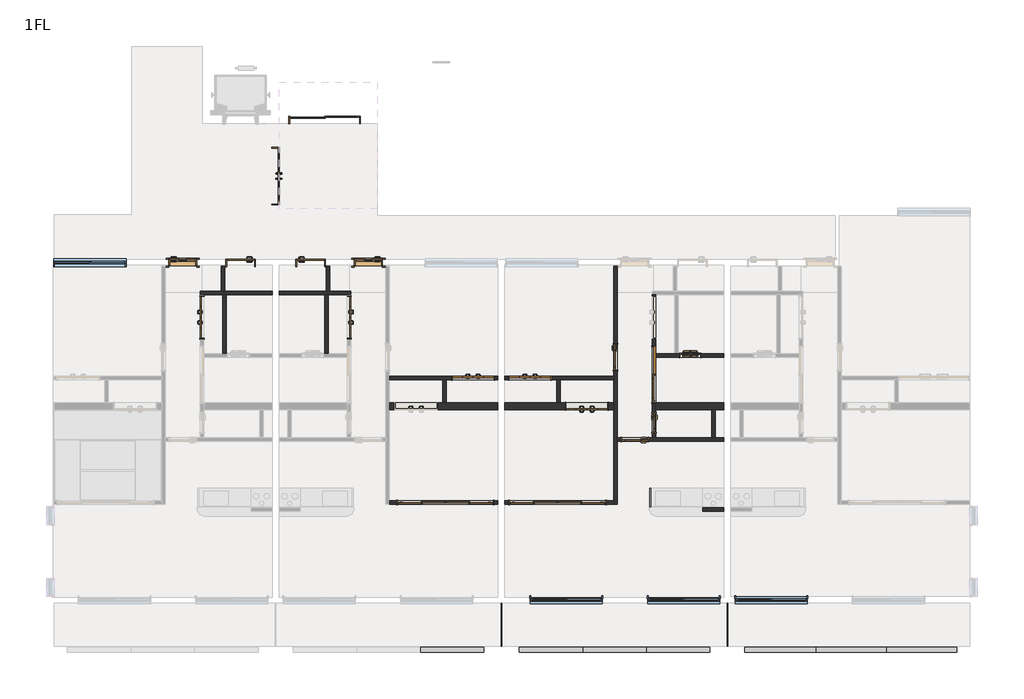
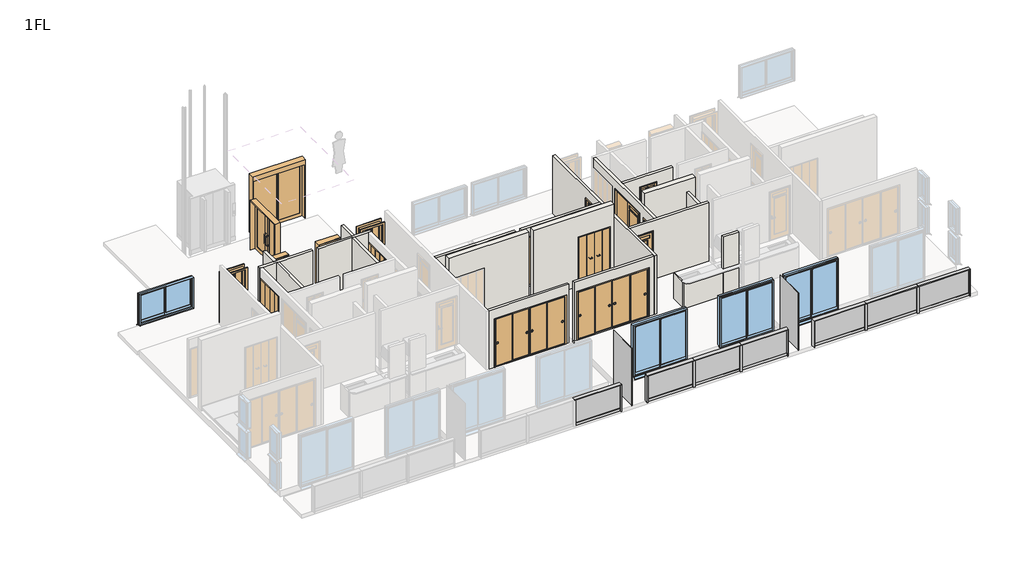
# One storey, part 2 of 3: 23 walls, 18 doors, 16 members, 9 plates, 4 windows.
"""IFC4 building model written with IfcOpenShell, lengths in millimetres."""

from ifc_helpers import new_model, si_unit, frame, origin, place, context, project, spatial, polyline, outline, extrude, faceted_brep, transform, mapped, element, save
from components import door_800x2000_a7d1584b, door_800x2000_010bfebf, w1200h2000_98cacc9b, w1200h2000_6a144d60, w1200h2000_99d19fb3, w1600h2000_4c3c234a, w1600h2000_3fdee943, w2000h2200_4605e8f1, w2800h2000_670b855b, w2800h2000_04aa64cd, w600h2000_7f2747f4, w600h2000_6a266bef, w800h2000_1d97c4d4, w800h2000_0ab7d42c, w800h2000_13e9f519, w800h2000_ccb03061, member_25x150_3f8205e2, member_25x150_f694351b, member_25x150_e95393f9, member_70x150_851c8a9b, plate_6aa9e5b9, plate_9f48129f, plate_365944b3, plate_b830f844, plate_2f85ae4c, window_2000x1200_fc91d1cf, window_2000x2000_f1ff98da

model = new_model("IFC4")

# Units and contexts
model_context = context("Model", 3, world=origin())
ifc_project = project(units=[si_unit("LENGTHUNIT", "METRE", prefix="MILLI")], contexts=[model_context])

# Site, building, storey
site = spatial("IfcSite", under=ifc_project)
building = spatial("IfcBuilding", under=site)
storey = spatial("IfcBuildingStorey", under=building, Name="1FL", Elevation=1000.0)

# Doors
placement = place(None, origin())
door_800x2000_shape = door_800x2000_a7d1584b(model_context)
element("IfcDoor", 1, ObjectType="片開き3 : 800x2000", at=placement, inside=storey, context=model_context, shape_type="MappedRepresentation", body=[
    mapped(door_800x2000_shape, transform((-7378.7187246, -5726.3671638, 1000.0), x_axis=(1.0, 0.0, 0.0), y_axis=(0.0, 1.0, 0.0), z_axis=(0.0, 0.0, 1.0))),
])
door_800x2000_2_shape = door_800x2000_010bfebf(model_context)
element("IfcDoor", 2, ObjectType="片開き3 : 800x2000", at=placement, inside=storey, context=model_context, shape_type="MappedRepresentation", body=[
    mapped(door_800x2000_2_shape, transform((-2078.7187246, -5726.3671638, 1000.0), x_axis=(-1.0, 0.0, 0.0), y_axis=(0.0, -1.0, 0.0), z_axis=(0.0, 0.0, 1.0))),
])
w1200h2000_shape = w1200h2000_98cacc9b(model_context)
element("IfcDoor", 3, ObjectType="木製折戸 : w1200h2000", at=placement, inside=storey, context=model_context, shape_type="MappedRepresentation", body=[
    mapped(w1200h2000_shape, transform((4158.7812754, -9820.1171638, 1100.0), x_axis=(-1.0, 0.0, 0.0), y_axis=(0.0, -1.0, 0.0), z_axis=(0.0, 0.0, 1.0))),
])
w1200h2000_2_shape = w1200h2000_6a144d60(model_context)
element("IfcDoor", 4, ObjectType="木製折戸 : w1200h2000", at=placement, inside=storey, context=model_context, shape_type="MappedRepresentation", body=[
    mapped(w1200h2000_2_shape, transform((-6828.7187246, -7280.1171638, 1100.0), x_axis=(0.0, 1.0, 0.0), y_axis=(-1.0, 0.0, 0.0), z_axis=(0.0, 0.0, 1.0))),
])
element("IfcDoor", 5, ObjectType="木製折戸 : w1200h2000", at=placement, inside=storey, context=model_context, shape_type="MappedRepresentation", body=[
    mapped(w1200h2000_2_shape, transform((2533.7812754, -9020.1171638, 1100.0), x_axis=(1.0, 0.0, 0.0), y_axis=(0.0, 1.0, 0.0), z_axis=(0.0, 0.0, 1.0))),
])
w1200h2000_3_shape = w1200h2000_99d19fb3(model_context)
element("IfcDoor", 6, ObjectType="木製折戸 : w1200h2000", at=placement, inside=storey, context=model_context, shape_type="MappedRepresentation", body=[
    mapped(w1200h2000_3_shape, transform((908.7812754, -9020.1171638, 1100.0), x_axis=(-1.0, 0.0, 0.0), y_axis=(0.0, -1.0, 0.0), z_axis=(0.0, 0.0, 1.0))),
])
element("IfcDoor", 7, ObjectType="木製折戸 : w1200h2000", at=placement, inside=storey, context=model_context, shape_type="MappedRepresentation", body=[
    mapped(w1200h2000_3_shape, transform((-2628.7187246, -7280.1171638, 1100.0), x_axis=(0.0, 1.0, 0.0), y_axis=(-1.0, 0.0, 0.0), z_axis=(0.0, 0.0, 1.0))),
])
w1600h2000_shape = w1600h2000_4c3c234a(model_context)
element("IfcDoor", 8, ObjectType="片引戸CL2017 : w1600h2000", at=placement, inside=storey, context=model_context, shape_type="MappedRepresentation", body=[
    mapped(w1600h2000_shape, transform((6071.2812754, -8920.1171638, 1100.0), x_axis=(0.0, -1.0, 0.0), y_axis=(1.0, 0.0, 0.0), z_axis=(0.0, 0.0, 1.0))),
])
w1600h2000_2_shape = w1600h2000_3fdee943(model_context)
element("IfcDoor", 9, ObjectType="両開_ガラス四方框 : w1600h2000", at=placement, inside=storey, context=model_context, shape_type="MappedRepresentation", body=[
    mapped(w1600h2000_2_shape, transform((-4728.7187246, -3250.1171638, 1000.0), x_axis=(0.0, -1.0, 0.0), y_axis=(1.0, 0.0, 0.0), z_axis=(0.0, 0.0, 1.0))),
])
w2000h2200_shape = w2000h2200_4605e8f1(model_context)
element("IfcDoor", 10, ObjectType="片引き_自動ドア_ガラス四方框 : w2000h2200", at=placement, inside=storey, context=model_context, shape_type="MappedRepresentation", body=[
    mapped(w2000h2200_shape, transform((-3203.7187246, -1650.1171638, 1000.0), x_axis=(1.0, 0.0, 0.0), y_axis=(0.0, 1.0, 0.0), z_axis=(0.0, 0.0, 1.0))),
])
w2800h2000_shape = w2800h2000_670b855b(model_context)
element("IfcDoor", 11, ObjectType="引違い 4 枚 2 溝_襖 : w2800h2000", at=placement, inside=storey, context=model_context, shape_type="MappedRepresentation", body=[
    mapped(w2800h2000_shape, transform((3315.7457714, -12570.1171638, 1100.0), x_axis=(-1.0, 0.0, 0.0), y_axis=(0.0, -1.0, 0.0), z_axis=(0.0, 0.0, 1.0))),
])
w2800h2000_2_shape = w2800h2000_04aa64cd(model_context)
element("IfcDoor", 12, ObjectType="引違い 4 枚 2 溝_襖 : w2800h2000", at=placement, inside=storey, context=model_context, shape_type="MappedRepresentation", body=[
    mapped(w2800h2000_2_shape, transform((126.8167793, -12570.1171638, 1100.0), x_axis=(1.0, 0.0, 0.0), y_axis=(0.0, 1.0, 0.0), z_axis=(0.0, 0.0, 1.0))),
])
w600h2000_shape = w600h2000_7f2747f4(model_context)
element("IfcDoor", 13, ObjectType="片開戸CL2058 : w600h2000", at=placement, inside=storey, context=model_context, shape_type="MappedRepresentation", body=[
    mapped(w600h2000_shape, transform((6071.2812754, -10295.1171638, 1100.0), x_axis=(0.0, -1.0, 0.0), y_axis=(1.0, 0.0, 0.0), z_axis=(0.0, 0.0, 1.0))),
])
w600h2000_2_shape = w600h2000_6a266bef(model_context)
element("IfcDoor", 14, ObjectType="浴室折戸 : w600h2000", at=placement, inside=storey, context=model_context, shape_type="MappedRepresentation", body=[
    mapped(w600h2000_2_shape, transform((7111.2812754, -8370.1171638, 1100.0), x_axis=(1.0, 0.0, 0.0), y_axis=(0.0, 1.0, 0.0), z_axis=(0.0, 0.0, 1.0))),
])
w800h2000_shape = w800h2000_1d97c4d4(model_context)
element("IfcDoor", 15, ObjectType="片開 : w800h2000", at=placement, inside=storey, context=model_context, shape_type="MappedRepresentation", body=[
    mapped(w800h2000_shape, transform((-5728.7187246, -5726.3671638, 1000.0), x_axis=(-1.0, 0.0, 0.0), y_axis=(0.0, -1.0, 0.0), z_axis=(0.0, 0.0, 1.0))),
])
w800h2000_2_shape = w800h2000_0ab7d42c(model_context)
element("IfcDoor", 16, ObjectType="片開 : w800h2000", at=placement, inside=storey, context=model_context, shape_type="MappedRepresentation", body=[
    mapped(w800h2000_2_shape, transform((-3728.7187246, -5726.3671638, 1000.0), x_axis=(1.0, 0.0, 0.0), y_axis=(0.0, 1.0, 0.0), z_axis=(0.0, 0.0, 1.0))),
])
w800h2000_3_shape = w800h2000_13e9f519(model_context)
element("IfcDoor", 17, ObjectType="片開戸CL2058 : w800h2000", at=placement, inside=storey, context=model_context, shape_type="MappedRepresentation", body=[
    mapped(w800h2000_3_shape, transform((4971.2812754, -8420.1171638, 1100.0), x_axis=(0.0, -1.0, 0.0), y_axis=(1.0, 0.0, 0.0), z_axis=(0.0, 0.0, 1.0))),
])
w800h2000_4_shape = w800h2000_ccb03061(model_context)
element("IfcDoor", 18, ObjectType="片開戸CL2058 : w800h2000", at=placement, inside=storey, context=model_context, shape_type="MappedRepresentation", body=[
    mapped(w800h2000_4_shape, transform((5521.2812754, -10770.1171638, 1100.0), x_axis=(-1.0, 0.0, 0.0), y_axis=(0.0, -1.0, 0.0), z_axis=(0.0, 0.0, 1.0))),
])

# Members
member_25x150_shape = member_25x150_3f8205e2(model_context)
element("IfcMember", 19, ObjectType="長方形のマリオン : 25x150", at=placement, inside=storey, context=model_context, shape_type="MappedRepresentation", body=[
    mapped(member_25x150_shape, transform((1221.2812754, -16770.1171638, 1000.0), x_axis=(1.0, 0.0, 0.0), y_axis=(0.0, -1.0, 0.0), z_axis=(0.0, 0.0, -1.0))),
])
element("IfcMember", 20, ObjectType="長方形のマリオン : 25x150", at=placement, inside=storey, context=model_context, shape_type="MappedRepresentation", body=[
    mapped(member_25x150_shape, transform((7671.2812754, -16770.1171638, 1000.0), x_axis=(1.0, 0.0, 0.0), y_axis=(0.0, -1.0, 0.0), z_axis=(0.0, 0.0, -1.0))),
])
element("IfcMember", 21, ObjectType="長方形のマリオン : 25x150", at=placement, inside=storey, context=model_context, shape_type="MappedRepresentation", body=[
    mapped(member_25x150_shape, transform((14721.2812754, -16770.1171638, 1000.0), x_axis=(1.0, 0.0, 0.0), y_axis=(0.0, -1.0, 0.0), z_axis=(0.0, 0.0, -1.0))),
])
element("IfcMember", 22, ObjectType="長方形のマリオン : 25x150", at=placement, inside=storey, context=model_context, shape_type="MappedRepresentation", body=[
    mapped(member_25x150_shape, transform((2221.2812754, -16770.1171638, 2075.0), x_axis=(-1.0, 0.0, 0.0), y_axis=(0.0, -1.0, 0.0), z_axis=(0.0, 0.0, 1.0))),
])
element("IfcMember", 23, ObjectType="長方形のマリオン : 25x150", at=placement, inside=storey, context=model_context, shape_type="MappedRepresentation", body=[
    mapped(member_25x150_shape, transform((8671.2812754, -16770.1171638, 2075.0), x_axis=(-1.0, 0.0, 0.0), y_axis=(0.0, -1.0, 0.0), z_axis=(0.0, 0.0, 1.0))),
])
member_25x150_2_shape = member_25x150_f694351b(model_context)
element("IfcMember", 24, ObjectType="長方形のマリオン : 25x150", at=placement, inside=storey, context=model_context, shape_type="MappedRepresentation", body=[
    mapped(member_25x150_2_shape, transform((1221.2812754, -16770.1171638, 2100.0), x_axis=(0.0, 0.0, 1.0), y_axis=(0.0, -1.0, 0.0), z_axis=(1.0, 0.0, 0.0))),
])
element("IfcMember", 25, ObjectType="長方形のマリオン : 25x150", at=placement, inside=storey, context=model_context, shape_type="MappedRepresentation", body=[
    mapped(member_25x150_2_shape, transform((7671.2812754, -16770.1171638, 2100.0), x_axis=(0.0, 0.0, 1.0), y_axis=(0.0, -1.0, 0.0), z_axis=(1.0, 0.0, 0.0))),
])
element("IfcMember", 26, ObjectType="長方形のマリオン : 25x150", at=placement, inside=storey, context=model_context, shape_type="MappedRepresentation", body=[
    mapped(member_25x150_2_shape, transform((4037.947942, -16770.1171638, 2100.0), x_axis=(0.0, 0.0, 1.0), y_axis=(0.0, -1.0, 0.0), z_axis=(1.0, 0.0, 0.0))),
])
element("IfcMember", 27, ObjectType="長方形のマリオン : 25x150", at=placement, inside=storey, context=model_context, shape_type="MappedRepresentation", body=[
    mapped(member_25x150_2_shape, transform((5854.6146087, -16770.1171638, 2100.0), x_axis=(0.0, 0.0, 1.0), y_axis=(0.0, -1.0, 0.0), z_axis=(1.0, 0.0, 0.0))),
])
member_25x150_3_shape = member_25x150_e95393f9(model_context)
element("IfcMember", 28, ObjectType="長方形のマリオン : 25x150", at=placement, inside=storey, context=model_context, shape_type="MappedRepresentation", body=[
    mapped(member_25x150_3_shape, transform((14721.2812754, -16770.1171638, 2100.0), x_axis=(0.0, 0.0, 1.0), y_axis=(0.0, -1.0, 0.0), z_axis=(1.0, 0.0, 0.0))),
])
element("IfcMember", 29, ObjectType="長方形のマリオン : 25x150", at=placement, inside=storey, context=model_context, shape_type="MappedRepresentation", body=[
    mapped(member_25x150_3_shape, transform((10687.947942, -16770.1171638, 2100.0), x_axis=(0.0, 0.0, 1.0), y_axis=(0.0, -1.0, 0.0), z_axis=(1.0, 0.0, 0.0))),
])
element("IfcMember", 30, ObjectType="長方形のマリオン : 25x150", at=placement, inside=storey, context=model_context, shape_type="MappedRepresentation", body=[
    mapped(member_25x150_3_shape, transform((12704.6146087, -16770.1171638, 2100.0), x_axis=(0.0, 0.0, 1.0), y_axis=(0.0, -1.0, 0.0), z_axis=(1.0, 0.0, 0.0))),
])
member_70x150_shape = member_70x150_851c8a9b(model_context)
element("IfcMember", 31, ObjectType="長方形のマリオン : 70x150", at=placement, inside=storey, context=model_context, shape_type="MappedRepresentation", body=[
    mapped(member_70x150_shape, transform((4037.947942, -16770.1171638, 1000.0), x_axis=(1.0, 0.0, 0.0), y_axis=(0.0, -1.0, 0.0), z_axis=(0.0, 0.0, -1.0))),
])
element("IfcMember", 32, ObjectType="長方形のマリオン : 70x150", at=placement, inside=storey, context=model_context, shape_type="MappedRepresentation", body=[
    mapped(member_70x150_shape, transform((5854.6146087, -16770.1171638, 1000.0), x_axis=(1.0, 0.0, 0.0), y_axis=(0.0, -1.0, 0.0), z_axis=(0.0, 0.0, -1.0))),
])
element("IfcMember", 33, ObjectType="長方形のマリオン : 70x150", at=placement, inside=storey, context=model_context, shape_type="MappedRepresentation", body=[
    mapped(member_70x150_shape, transform((10687.947942, -16770.1171638, 1000.0), x_axis=(1.0, 0.0, 0.0), y_axis=(0.0, -1.0, 0.0), z_axis=(0.0, 0.0, -1.0))),
])
element("IfcMember", 34, ObjectType="長方形のマリオン : 70x150", at=placement, inside=storey, context=model_context, shape_type="MappedRepresentation", body=[
    mapped(member_70x150_shape, transform((12704.6146087, -16770.1171638, 1000.0), x_axis=(1.0, 0.0, 0.0), y_axis=(0.0, -1.0, 0.0), z_axis=(0.0, 0.0, -1.0))),
])

# Plates
plate_shape = plate_6aa9e5b9(model_context)
element("IfcPlate", 35, ObjectType="システム パネル : 標準", at=placement, inside=storey, context=model_context, shape_type="MappedRepresentation", body=[
    mapped(plate_shape, transform((1721.2812754, -16056.9921638, 950.0), x_axis=(0.0, -1.0, 0.0), y_axis=(1.0, 0.0, 0.0), z_axis=(0.0, 0.0, 1.0))),
])
element("IfcPlate", 36, ObjectType="システム パネル : 標準", at=placement, inside=storey, context=model_context, shape_type="MappedRepresentation", body=[
    mapped(plate_shape, transform((8171.2812754, -16056.9921638, 950.0), x_axis=(0.0, -1.0, 0.0), y_axis=(1.0, 0.0, 0.0), z_axis=(0.0, 0.0, 1.0))),
])
plate_2_shape = plate_9f48129f(model_context)
element("IfcPlate", 37, ObjectType="r パネル FIX 下框付 : 框 H100", at=placement, inside=storey, context=model_context, shape_type="MappedRepresentation", body=[
    mapped(plate_2_shape, transform((317.947942, -16770.1171638, 1000.0), x_axis=(1.0, 0.0, 0.0), y_axis=(0.0, 1.0, 0.0), z_axis=(0.0, 0.0, 1.0))),
])
element("IfcPlate", 38, ObjectType="r パネル FIX 下框付 : 框 H100", at=placement, inside=storey, context=model_context, shape_type="MappedRepresentation", body=[
    mapped(plate_2_shape, transform((3124.6146087, -16770.1171638, 1000.0), x_axis=(1.0, 0.0, 0.0), y_axis=(0.0, 1.0, 0.0), z_axis=(0.0, 0.0, 1.0))),
])
element("IfcPlate", 39, ObjectType="r パネル FIX 下框付 : 框 H100", at=placement, inside=storey, context=model_context, shape_type="MappedRepresentation", body=[
    mapped(plate_2_shape, transform((6767.947942, -16770.1171638, 1000.0), x_axis=(1.0, 0.0, 0.0), y_axis=(0.0, 1.0, 0.0), z_axis=(0.0, 0.0, 1.0))),
])
plate_3_shape = plate_365944b3(model_context)
element("IfcPlate", 40, ObjectType="r パネル FIX 下框付 : 框 H100", at=placement, inside=storey, context=model_context, shape_type="MappedRepresentation", body=[
    mapped(plate_3_shape, transform((4946.2812754, -16770.1171638, 1000.0), x_axis=(1.0, 0.0, 0.0), y_axis=(0.0, 1.0, 0.0), z_axis=(0.0, 0.0, 1.0))),
])
plate_4_shape = plate_b830f844(model_context)
element("IfcPlate", 41, ObjectType="r パネル FIX 下框付 : 框 H100", at=placement, inside=storey, context=model_context, shape_type="MappedRepresentation", body=[
    mapped(plate_4_shape, transform((9674.6146087, -16770.1171638, 1000.0), x_axis=(1.0, 0.0, 0.0), y_axis=(0.0, 1.0, 0.0), z_axis=(0.0, 0.0, 1.0))),
])
element("IfcPlate", 42, ObjectType="r パネル FIX 下框付 : 框 H100", at=placement, inside=storey, context=model_context, shape_type="MappedRepresentation", body=[
    mapped(plate_4_shape, transform((13717.947942, -16770.1171638, 1000.0), x_axis=(1.0, 0.0, 0.0), y_axis=(0.0, 1.0, 0.0), z_axis=(0.0, 0.0, 1.0))),
])
plate_5_shape = plate_2f85ae4c(model_context)
element("IfcPlate", 43, ObjectType="r パネル FIX 下框付 : 框 H100", at=placement, inside=storey, context=model_context, shape_type="MappedRepresentation", body=[
    mapped(plate_5_shape, transform((11696.2812754, -16770.1171638, 1000.0), x_axis=(1.0, 0.0, 0.0), y_axis=(0.0, 1.0, 0.0), z_axis=(0.0, 0.0, 1.0))),
])

# Walls
element("IfcWall", 44, ObjectType="内壁(R)RC200", at=placement, inside=storey, context=model_context, shape_type="Brep", body=[
    faceted_brep([(1621.2812754, -9720.1171638, 1000.0), (146.2812754, -9720.1171638, 1000.0), (46.2812754, -9720.1171638, 1000.0), (-1478.7187246, -9720.1171638, 1000.0), (-1478.7187246, -9720.1171638, 4000.0), (1621.2812754, -9720.1171638, 4000.0), (-96.2187246, -9720.1171638, 3120.0), (-1336.2187246, -9720.1171638, 3120.0), (-1336.2187246, -9720.1171638, 1100.0), (-96.2187246, -9720.1171638, 1100.0), (1621.2812754, -9920.1171638, 1000.0), (1621.2812754, -9920.1171638, 4000.0), (-1478.7187246, -9920.1171638, 4000.0), (-1478.7187246, -9920.1171638, 1000.0), (-96.2187246, -9920.1171638, 3120.0), (-96.2187246, -9920.1171638, 1100.0), (-1336.2187246, -9920.1171638, 1100.0), (-1336.2187246, -9920.1171638, 3120.0)], [[[0, 1, 2, 3, 4, 5], [6, 7, 8, 9]], [[10, 11, 12, 13], [14, 15, 16, 17]], [[3, 2, 1, 0, 10, 13]], [[5, 4, 12, 11]], [[15, 14, 6, 9]], [[16, 15, 9, 8]], [[17, 16, 8, 7]], [[14, 17, 7, 6]], [[0, 5, 11, 10]], [[4, 3, 13, 12]]]),
])
element("IfcWall", 45, ObjectType="内壁(R)RC200", at=placement, inside=storey, context=model_context, shape_type="Brep", body=[
    faceted_brep([(1821.2812754, -9920.1171638, 1000.0), (4921.2812754, -9920.1171638, 1000.0), (4921.2812754, -9920.1171638, 4000.0), (1821.2812754, -9920.1171638, 4000.0), (3538.7812754, -9920.1171638, 3120.0), (4778.7812754, -9920.1171638, 3120.0), (4778.7812754, -9920.1171638, 1100.0), (3538.7812754, -9920.1171638, 1100.0), (1821.2812754, -9720.1171638, 1000.0), (1821.2812754, -9720.1171638, 4000.0), (4921.2812754, -9720.1171638, 4000.0), (4921.2812754, -9720.1171638, 1000.0), (3396.2812754, -9720.1171638, 1000.0), (3296.2812754, -9720.1171638, 1000.0), (3538.7812754, -9720.1171638, 3120.0), (3538.7812754, -9720.1171638, 1100.0), (4778.7812754, -9720.1171638, 1100.0), (4778.7812754, -9720.1171638, 3120.0)], [[[0, 1, 2, 3], [4, 5, 6, 7]], [[8, 9, 10, 11, 12, 13], [14, 15, 16, 17]], [[1, 0, 8, 13, 12, 11]], [[3, 2, 10, 9]], [[15, 14, 4, 7]], [[16, 15, 7, 6]], [[17, 16, 6, 5]], [[14, 17, 5, 4]], [[0, 3, 9, 8]], [[2, 1, 11, 10]]]),
])
element("IfcWall", 46, ObjectType="内壁(R)RC200", at=placement, inside=storey, context=model_context, shape_type="Brep", body=[
    faceted_brep([(6121.2812754, -9920.1171638, 1000.0), (7721.2812754, -9920.1171638, 1000.0), (7821.2812754, -9920.1171638, 1000.0), (8071.2812754, -9920.1171638, 1000.0), (8071.2812754, -9920.1171638, 4000.0), (6121.2812754, -9920.1171638, 4000.0), (6121.2812754, -9720.1171638, 1000.0), (6121.2812754, -9720.1171638, 4000.0), (8071.2812754, -9720.1171638, 4000.0), (8071.2812754, -9720.1171638, 1000.0)], [[[0, 1, 2, 3, 4, 5]], [[6, 7, 8, 9]], [[3, 2, 1, 0, 6, 9]], [[5, 4, 8, 7]], [[0, 5, 7, 6]], [[4, 3, 9, 8]]]),
])
element("IfcWall", 47, ObjectType="(F)30", at=placement, inside=storey, context=model_context, shape_type="SweptSolid", body=[
    extrude(outline(polyline([(5948.8875596, -12720.1171638), (5948.8875596, -12165.1171638), (5978.8875596, -12165.1171638), (5978.8875596, -12720.1171638), (5948.8875596, -12720.1171638)])), frame((0.0, 0.0, 1100.0), z_axis=(0.0, 0.0, 1.0), x_axis=(1.0, 0.0, 0.0)), (0.0, 0.0, 1.0), 1060.0),
])
element("IfcWall", 48, ObjectType="(L1)LGS100", at=placement, inside=storey, context=model_context, shape_type="Brep", body=[
    faceted_brep([(-6878.7187246, -6630.1171638, 1000.0), (-6778.7187246, -6630.1171638, 1000.0), (-6238.7187246, -6630.1171638, 1000.0), (-6138.7187246, -6630.1171638, 1000.0), (-4828.7187246, -6630.1171638, 1000.0), (-4828.7187246, -6630.1171638, 3500.0), (-6138.7187246, -6630.1171638, 3500.0), (-6238.7187246, -6630.1171638, 3500.0), (-6778.7187246, -6630.1171638, 3500.0), (-6878.7187246, -6630.1171638, 3500.0), (-6878.7187246, -6530.1171638, 1000.0), (-6878.7187246, -6530.1171638, 3500.0), (-6278.7187246, -6530.1171638, 3500.0), (-6178.7187246, -6530.1171638, 3500.0), (-4828.7187246, -6530.1171638, 3500.0), (-4828.7187246, -6530.1171638, 1000.0), (-6178.7187246, -6530.1171638, 1000.0), (-6278.7187246, -6530.1171638, 1000.0)], [[[0, 1, 2, 3, 4, 5, 6, 7, 8, 9]], [[10, 11, 12, 13, 14, 15, 16, 17]], [[4, 3, 2, 1, 0, 10, 17, 16, 15]], [[9, 8, 7, 6, 5, 14, 13, 12, 11]], [[5, 4, 15, 14]], [[0, 9, 11, 10]]]),
])
element("IfcWall", 49, ObjectType="(L1)LGS100", at=placement, inside=storey, context=model_context, shape_type="SweptSolid", body=[
    extrude(outline(polyline([(-6178.7187246, -5826.3671638), (-6178.7187246, -6530.1171638), (-6278.7187246, -6530.1171638), (-6278.7187246, -5826.3671638), (-6178.7187246, -5826.3671638)])), frame((0.0, 0.0, 1000.0), z_axis=(0.0, 0.0, 1.0), x_axis=(1.0, 0.0, 0.0)), (0.0, 0.0, 1.0), 2500.0),
])
element("IfcWall", 50, ObjectType="(L1)LGS100", at=placement, inside=storey, context=model_context, shape_type="SweptSolid", body=[
    extrude(outline(polyline([(-6138.7187246, -6630.1171638), (-6138.7187246, -8320.1171638), (-6238.7187246, -8320.1171638), (-6238.7187246, -6630.1171638), (-6138.7187246, -6630.1171638)])), frame((0.0, 0.0, 1000.0), z_axis=(0.0, 0.0, 1.0), x_axis=(1.0, 0.0, 0.0)), (0.0, 0.0, 1.0), 2500.0),
])
element("IfcWall", 51, ObjectType="(L1)LGS100", at=placement, inside=storey, context=model_context, shape_type="Brep", body=[
    faceted_brep([(1621.2812754, -8970.1171638, 1000.0), (-1478.7187246, -8970.1171638, 1000.0), (-1478.7187246, -8970.1171638, 3500.0), (1621.2812754, -8970.1171638, 3500.0), (288.7812754, -8970.1171638, 3120.0), (288.7812754, -8970.1171638, 1100.0), (1528.7812754, -8970.1171638, 1100.0), (1528.7812754, -8970.1171638, 3120.0), (-1478.7187246, -9070.1171638, 1000.0), (46.2812754, -9070.1171638, 1000.0), (146.2812754, -9070.1171638, 1000.0), (1621.2812754, -9070.1171638, 1000.0), (1621.2812754, -9070.1171638, 3500.0), (146.2812754, -9070.1171638, 3500.0), (46.2812754, -9070.1171638, 3500.0), (-1478.7187246, -9070.1171638, 3500.0), (288.7812754, -9070.1171638, 1100.0), (288.7812754, -9070.1171638, 3120.0), (1528.7812754, -9070.1171638, 3120.0), (1528.7812754, -9070.1171638, 1100.0)], [[[0, 1, 2, 3], [4, 5, 6, 7]], [[8, 9, 10, 11, 12, 13, 14, 15], [16, 17, 18, 19]], [[1, 0, 11, 10, 9, 8]], [[3, 2, 15, 14, 13, 12]], [[2, 1, 8, 15]], [[4, 17, 16, 5]], [[5, 16, 19, 6]], [[17, 4, 7, 18]], [[18, 7, 6, 19]], [[0, 3, 12, 11]]]),
])
element("IfcWall", 52, ObjectType="(L1)LGS100", at=placement, inside=storey, context=model_context, shape_type="SweptSolid", body=[
    extrude(outline(polyline([(146.2812754, -9070.1171638), (146.2812754, -9720.1171638), (46.2812754, -9720.1171638), (46.2812754, -9070.1171638), (146.2812754, -9070.1171638)])), frame((0.0, 0.0, 1000.0), z_axis=(0.0, 0.0, 1.0), x_axis=(1.0, 0.0, 0.0)), (0.0, 0.0, 1.0), 2500.0),
])
element("IfcWall", 53, ObjectType="(L1)LGS100", at=placement, inside=storey, context=model_context, shape_type="Brep", body=[
    faceted_brep([(-2578.7187246, -6530.1171638, 1000.0), (-3178.7187246, -6530.1171638, 1000.0), (-3278.7187246, -6530.1171638, 1000.0), (-4628.7187246, -6530.1171638, 1000.0), (-4628.7187246, -6530.1171638, 3500.0), (-3278.7187246, -6530.1171638, 3500.0), (-3178.7187246, -6530.1171638, 3500.0), (-2578.7187246, -6530.1171638, 3500.0), (-2578.7187246, -6630.1171638, 1000.0), (-2578.7187246, -6630.1171638, 3500.0), (-2678.7187246, -6630.1171638, 3500.0), (-3218.7187246, -6630.1171638, 3500.0), (-3318.7187246, -6630.1171638, 3500.0), (-4628.7187246, -6630.1171638, 3500.0), (-4628.7187246, -6630.1171638, 1000.0), (-3318.7187246, -6630.1171638, 1000.0), (-3218.7187246, -6630.1171638, 1000.0), (-2678.7187246, -6630.1171638, 1000.0)], [[[0, 1, 2, 3, 4, 5, 6, 7]], [[8, 9, 10, 11, 12, 13, 14, 15, 16, 17]], [[3, 2, 1, 0, 8, 17, 16, 15, 14]], [[7, 6, 5, 4, 13, 12, 11, 10, 9]], [[0, 7, 9, 8]], [[4, 3, 14, 13]]]),
])
element("IfcWall", 54, ObjectType="(L1)LGS100", at=placement, inside=storey, context=model_context, shape_type="SweptSolid", body=[
    extrude(outline(polyline([(-3178.7187246, -5826.3671638), (-3178.7187246, -6530.1171638), (-3278.7187246, -6530.1171638), (-3278.7187246, -5826.3671638), (-3178.7187246, -5826.3671638)])), frame((0.0, 0.0, 1000.0), z_axis=(0.0, 0.0, 1.0), x_axis=(1.0, 0.0, 0.0)), (0.0, 0.0, 1.0), 2500.0),
])
element("IfcWall", 55, ObjectType="(L1)LGS100", at=placement, inside=storey, context=model_context, shape_type="SweptSolid", body=[
    extrude(outline(polyline([(-3218.7187246, -6630.1171638), (-3218.7187246, -8320.1171638), (-3318.7187246, -8320.1171638), (-3318.7187246, -6630.1171638), (-3218.7187246, -6630.1171638)])), frame((0.0, 0.0, 1000.0), z_axis=(0.0, 0.0, 1.0), x_axis=(1.0, 0.0, 0.0)), (0.0, 0.0, 1.0), 2500.0),
])
element("IfcWall", 56, ObjectType="(L1)LGS100", at=placement, inside=storey, context=model_context, shape_type="SweptSolid", body=[
    extrude(outline(polyline([(1000.0, 1621.2812754), (3500.0, 1621.2812754), (3500.0, -1478.7187246), (1000.0, -1478.7187246), (1000.0, 1621.2812754)]), holes=[polyline([(3100.0, 1521.2812754), (1100.0, 1521.2812754), (1100.0, -1278.7187246), (3100.0, -1278.7187246), (3100.0, 1521.2812754)])]), frame((0.0, -12620.1171638, 0.0), z_axis=(0.0, 1.0, 0.0), x_axis=(0.0, 0.0, 1.0)), (0.0, 0.0, 1.0), 100.0),
])
element("IfcWall", 57, ObjectType="(L1)LGS100", at=placement, inside=storey, context=model_context, shape_type="Brep", body=[
    faceted_brep([(1821.2812754, -9070.1171638, 1000.0), (3296.2812754, -9070.1171638, 1000.0), (3396.2812754, -9070.1171638, 1000.0), (4921.2812754, -9070.1171638, 1000.0), (4921.2812754, -9070.1171638, 3500.0), (3396.2812754, -9070.1171638, 3500.0), (3296.2812754, -9070.1171638, 3500.0), (1821.2812754, -9070.1171638, 3500.0), (3153.7812754, -9070.1171638, 3120.0), (3153.7812754, -9070.1171638, 1100.0), (1913.7812754, -9070.1171638, 1100.0), (1913.7812754, -9070.1171638, 3120.0), (4921.2812754, -8970.1171638, 1000.0), (1821.2812754, -8970.1171638, 1000.0), (1821.2812754, -8970.1171638, 3500.0), (4921.2812754, -8970.1171638, 3500.0), (3153.7812754, -8970.1171638, 1100.0), (3153.7812754, -8970.1171638, 3120.0), (1913.7812754, -8970.1171638, 3120.0), (1913.7812754, -8970.1171638, 1100.0)], [[[0, 1, 2, 3, 4, 5, 6, 7], [8, 9, 10, 11]], [[12, 13, 14, 15], [16, 17, 18, 19]], [[3, 2, 1, 0, 13, 12]], [[7, 6, 5, 4, 15, 14]], [[4, 3, 12, 15]], [[8, 17, 16, 9]], [[9, 16, 19, 10]], [[17, 8, 11, 18]], [[18, 11, 10, 19]], [[0, 7, 14, 13]]]),
])
element("IfcWall", 58, ObjectType="(L1)LGS100", at=placement, inside=storey, context=model_context, shape_type="SweptSolid", body=[
    extrude(outline(polyline([(3396.2812754, -9070.1171638), (3396.2812754, -9720.1171638), (3296.2812754, -9720.1171638), (3296.2812754, -9070.1171638), (3396.2812754, -9070.1171638)])), frame((0.0, 0.0, 1000.0), z_axis=(0.0, 0.0, 1.0), x_axis=(1.0, 0.0, 0.0)), (0.0, 0.0, 1.0), 2500.0),
])
element("IfcWall", 59, ObjectType="(L1)LGS100", at=placement, inside=storey, context=model_context, shape_type="Brep", body=[
    faceted_brep([(5021.2812754, -12620.1171638, 1000.0), (5021.2812754, -10820.1171638, 1000.0), (5021.2812754, -10720.1171638, 1000.0), (5021.2812754, -5826.3671638, 1000.0), (5021.2812754, -5826.3671638, 3500.0), (5021.2812754, -10720.1171638, 3500.0), (5021.2812754, -10820.1171638, 3500.0), (5021.2812754, -12620.1171638, 3500.0), (5021.2812754, -8820.1171638, 1100.0), (5021.2812754, -8820.1171638, 3100.0), (5021.2812754, -8020.1171638, 3100.0), (5021.2812754, -8020.1171638, 1100.0), (4921.2812754, -12620.1171638, 1000.0), (4921.2812754, -12620.1171638, 3500.0), (4921.2812754, -12520.1171638, 3500.0), (4921.2812754, -9070.1171638, 3500.0), (4921.2812754, -8970.1171638, 3500.0), (4921.2812754, -5826.3671638, 3500.0), (4921.2812754, -5826.3671638, 1000.0), (4921.2812754, -8970.1171638, 1000.0), (4921.2812754, -9070.1171638, 1000.0), (4921.2812754, -9720.1171638, 1000.0), (4921.2812754, -9920.1171638, 1000.0), (4921.2812754, -12520.1171638, 1000.0), (4921.2812754, -8820.1171638, 1100.0), (4921.2812754, -8020.1171638, 1100.0), (4921.2812754, -8020.1171638, 3100.0), (4921.2812754, -8820.1171638, 3100.0)], [[[0, 1, 2, 3, 4, 5, 6, 7], [8, 9, 10, 11]], [[12, 13, 14, 15, 16, 17, 18, 19, 20, 21, 22, 23], [24, 25, 26, 27]], [[3, 2, 1, 0, 12, 23, 22, 21, 20, 19, 18]], [[7, 6, 5, 4, 17, 16, 15, 14, 13]], [[0, 7, 13, 12]], [[9, 8, 24, 27]], [[10, 9, 27, 26]], [[11, 10, 26, 25]], [[8, 11, 25, 24]], [[4, 3, 18, 17]]]),
])
element("IfcWall", 60, ObjectType="(L1)LGS100", at=placement, inside=storey, context=model_context, shape_type="Brep", body=[
    faceted_brep([(6121.2812754, -8420.1171638, 1000.0), (8071.2812754, -8420.1171638, 1000.0), (8071.2812754, -8420.1171638, 3500.0), (6121.2812754, -8420.1171638, 3500.0), (7431.2812754, -8420.1171638, 3120.0), (7431.2812754, -8420.1171638, 1100.0), (6791.2812754, -8420.1171638, 1100.0), (6791.2812754, -8420.1171638, 3120.0), (6121.2812754, -8320.1171638, 1000.0), (6121.2812754, -8320.1171638, 3500.0), (6661.2812754, -8320.1171638, 3500.0), (6761.2812754, -8320.1171638, 3500.0), (8071.2812754, -8320.1171638, 3500.0), (8071.2812754, -8320.1171638, 1000.0), (6761.2812754, -8320.1171638, 1000.0), (6661.2812754, -8320.1171638, 1000.0), (7431.2812754, -8320.1171638, 3120.0), (6791.2812754, -8320.1171638, 3120.0), (6791.2812754, -8320.1171638, 1100.0), (7431.2812754, -8320.1171638, 1100.0)], [[[0, 1, 2, 3], [4, 5, 6, 7]], [[8, 9, 10, 11, 12, 13, 14, 15], [16, 17, 18, 19]], [[1, 0, 8, 15, 14, 13]], [[3, 2, 12, 11, 10, 9]], [[0, 3, 9, 8]], [[5, 4, 16, 19]], [[6, 5, 19, 18]], [[7, 6, 18, 17]], [[4, 7, 17, 16]], [[2, 1, 13, 12]]]),
])
element("IfcWall", 61, ObjectType="(L1)LGS100", at=placement, inside=storey, context=model_context, shape_type="Brep", body=[
    faceted_brep([(6121.2812754, -10720.1171638, 1000.0), (6121.2812754, -9920.1171638, 1000.0), (6121.2812754, -9720.1171638, 1000.0), (6121.2812754, -8420.1171638, 1000.0), (6121.2812754, -8320.1171638, 1000.0), (6121.2812754, -6630.1171638, 1000.0), (6121.2812754, -6630.1171638, 3500.0), (6121.2812754, -8320.1171638, 3500.0), (6121.2812754, -8420.1171638, 3500.0), (6121.2812754, -10720.1171638, 3500.0), (6121.2812754, -10595.1171638, 1100.0), (6121.2812754, -10595.1171638, 3100.0), (6121.2812754, -9995.1171638, 3100.0), (6121.2812754, -9995.1171638, 1100.0), (6121.2812754, -6660.1171638, 1100.0), (6121.2812754, -7900.1171638, 1100.0), (6121.2812754, -7900.1171638, 3120.0), (6121.2812754, -6660.1171638, 3120.0), (6121.2812754, -9745.1171638, 1100.0), (6121.2812754, -9745.1171638, 3140.0), (6121.2812754, -8095.1171638, 3140.0), (6121.2812754, -8095.1171638, 1100.0), (6021.2812754, -6630.1171638, 1000.0), (6021.2812754, -10720.1171638, 1000.0), (6021.2812754, -10720.1171638, 3500.0), (6021.2812754, -6630.1171638, 3500.0), (6021.2812754, -10595.1171638, 3100.0), (6021.2812754, -10595.1171638, 1100.0), (6021.2812754, -9995.1171638, 1100.0), (6021.2812754, -9995.1171638, 3100.0), (6021.2812754, -7900.1171638, 1100.0), (6021.2812754, -6660.1171638, 1100.0), (6021.2812754, -6660.1171638, 3120.0), (6021.2812754, -7900.1171638, 3120.0), (6021.2812754, -9745.1171638, 1100.0), (6021.2812754, -8095.1171638, 1100.0), (6021.2812754, -8095.1171638, 3140.0), (6021.2812754, -9745.1171638, 3140.0)], [[[0, 1, 2, 3, 4, 5, 6, 7, 8, 9], [10, 11, 12, 13], [14, 15, 16, 17], [18, 19, 20, 21]], [[22, 23, 24, 25], [26, 27, 28, 29], [30, 31, 32, 33], [34, 35, 36, 37]], [[5, 4, 3, 2, 1, 0, 23, 22]], [[9, 8, 7, 6, 25, 24]], [[0, 9, 24, 23]], [[11, 10, 27, 26]], [[12, 11, 26, 29]], [[13, 12, 29, 28]], [[10, 13, 28, 27]], [[14, 31, 30, 15]], [[15, 30, 33, 16]], [[16, 33, 32, 17]], [[19, 18, 34, 37]], [[20, 19, 37, 36]], [[21, 20, 36, 35]], [[18, 21, 35, 34]], [[31, 14, 17, 32]], [[6, 5, 22, 25]]]),
])
element("IfcWall", 62, ObjectType="(L1)LGS100", at=placement, inside=storey, context=model_context, shape_type="SweptSolid", body=[
    extrude(outline(polyline([(7821.2812754, -9920.1171638), (7821.2812754, -10720.1171638), (7721.2812754, -10720.1171638), (7721.2812754, -9920.1171638), (7821.2812754, -9920.1171638)])), frame((0.0, 0.0, 1000.0), z_axis=(0.0, 0.0, 1.0), x_axis=(1.0, 0.0, 0.0)), (0.0, 0.0, 1.0), 2500.0),
])
element("IfcWall", 63, ObjectType="(L1)LGS100", at=placement, inside=storey, context=model_context, shape_type="Brep", body=[
    faceted_brep([(5021.2812754, -10820.1171638, 1000.0), (8071.2812754, -10820.1171638, 1000.0), (8071.2812754, -10820.1171638, 3500.0), (5021.2812754, -10820.1171638, 3500.0), (5121.2812754, -10820.1171638, 1100.0), (5121.2812754, -10820.1171638, 3100.0), (5921.2812754, -10820.1171638, 3100.0), (5921.2812754, -10820.1171638, 1100.0), (8071.2812754, -10720.1171638, 1000.0), (7821.2812754, -10720.1171638, 1000.0), (7721.2812754, -10720.1171638, 1000.0), (6121.2812754, -10720.1171638, 1000.0), (6021.2812754, -10720.1171638, 1000.0), (5021.2812754, -10720.1171638, 1000.0), (5021.2812754, -10720.1171638, 3500.0), (6021.2812754, -10720.1171638, 3500.0), (6121.2812754, -10720.1171638, 3500.0), (7721.2812754, -10720.1171638, 3500.0), (7821.2812754, -10720.1171638, 3500.0), (8071.2812754, -10720.1171638, 3500.0), (5121.2812754, -10720.1171638, 3100.0), (5121.2812754, -10720.1171638, 1100.0), (5921.2812754, -10720.1171638, 1100.0), (5921.2812754, -10720.1171638, 3100.0)], [[[0, 1, 2, 3], [4, 5, 6, 7]], [[8, 9, 10, 11, 12, 13, 14, 15, 16, 17, 18, 19], [20, 21, 22, 23]], [[1, 0, 13, 12, 11, 10, 9, 8]], [[3, 2, 19, 18, 17, 16, 15, 14]], [[0, 3, 14, 13]], [[4, 21, 20, 5]], [[5, 20, 23, 6]], [[6, 23, 22, 7]], [[21, 4, 7, 22]], [[2, 1, 8, 19]]]),
])
element("IfcWall", 64, ObjectType="(L1)LGS100", at=placement, inside=storey, context=model_context, shape_type="SweptSolid", body=[
    extrude(outline(polyline([(1000.0, 1821.2812754), (1000.0, 4921.2812754), (3500.0, 4921.2812754), (3500.0, 1821.2812754), (1000.0, 1821.2812754)]), holes=[polyline([(3100.0, 1921.2812754), (3100.0, 4721.2812754), (1100.0, 4721.2812754), (1100.0, 1921.2812754), (3100.0, 1921.2812754)])]), frame((0.0, -12620.1171638, 0.0), z_axis=(0.0, 1.0, 0.0), x_axis=(0.0, 0.0, 1.0)), (0.0, 0.0, 1.0), 100.0),
])
element("IfcWall", 65, ObjectType="(L1)LGS100", at=placement, inside=storey, context=model_context, shape_type="Brep", body=[
    faceted_brep([(8071.2812754, -12720.1171638, 1000.0), (7471.2812754, -12720.1171638, 1000.0), (7471.2812754, -12720.1171638, 2160.0), (7471.2812754, -12720.1171638, 3500.0), (8071.2812754, -12720.1171638, 3500.0), (8071.2812754, -12820.1171638, 1000.0), (8071.2812754, -12820.1171638, 3500.0), (7471.2812754, -12820.1171638, 3500.0), (7471.2812754, -12820.1171638, 2160.0), (7471.2812754, -12820.1171638, 1000.0)], [[[0, 1, 2, 3, 4]], [[5, 6, 7, 8, 9]], [[1, 0, 5, 9]], [[3, 2, 1, 9, 8, 7]], [[4, 3, 7, 6]], [[0, 4, 6, 5]]]),
])
element("IfcWall", 66, ObjectType="(L1)LGS100", at=placement, inside=storey, context=model_context, shape_type="Brep", body=[
    faceted_brep([(5948.8875596, -12820.1171638, 1000.0), (7471.2812754, -12820.1171638, 1000.0), (7471.2812754, -12820.1171638, 2160.0), (5948.8875596, -12820.1171638, 2160.0), (5948.8875596, -12720.1171638, 1000.0), (5948.8875596, -12720.1171638, 1100.0), (5948.8875596, -12720.1171638, 2160.0), (5978.8875596, -12720.1171638, 2160.0), (7471.2812754, -12720.1171638, 2160.0), (7471.2812754, -12720.1171638, 1000.0)], [[[0, 1, 2, 3]], [[4, 5, 6, 7, 8, 9]], [[1, 0, 4, 9]], [[2, 1, 9, 8]], [[3, 2, 8, 7, 6]], [[0, 3, 6, 5, 4]]]),
])

# Windows
window_2000x1200_shape = window_2000x1200_fc91d1cf(model_context)
element("IfcWindow", 67, ObjectType="鋼製_一般枠_引違い-二枚 : 2000x1200", at=placement, inside=storey, context=model_context, shape_type="MappedRepresentation", body=[
    mapped(window_2000x1200_shape, transform((-10028.7187246, -5726.3671638, 1250.0), x_axis=(1.0, 0.0, 0.0), y_axis=(0.0, 1.0, 0.0), z_axis=(0.0, 0.0, 1.0))),
])
window_2000x2000_shape = window_2000x2000_f1ff98da(model_context)
element("IfcWindow", 68, ObjectType="鋼製_一般枠_引違い-二枚 : 2000x2000", at=placement, inside=storey, context=model_context, shape_type="MappedRepresentation", body=[
    mapped(window_2000x2000_shape, transform((3571.2812754, -15343.8671638, 200.0), x_axis=(-1.0, 0.0, 0.0), y_axis=(0.0, -1.0, 0.0), z_axis=(0.0, 0.0, 1.0))),
])
element("IfcWindow", 69, ObjectType="鋼製_一般枠_引違い-二枚 : 2000x2000", at=placement, inside=storey, context=model_context, shape_type="MappedRepresentation", body=[
    mapped(window_2000x2000_shape, transform((6921.2812754, -15343.8671638, 200.0), x_axis=(-1.0, 0.0, 0.0), y_axis=(0.0, -1.0, 0.0), z_axis=(0.0, 0.0, 1.0))),
])
element("IfcWindow", 70, ObjectType="鋼製_一般枠_引違い-二枚 : 2000x2000", at=placement, inside=storey, context=model_context, shape_type="MappedRepresentation", body=[
    mapped(window_2000x2000_shape, transform((9421.2812754, -15343.8671638, 200.0), x_axis=(-1.0, 0.0, 0.0), y_axis=(0.0, -1.0, 0.0), z_axis=(0.0, 0.0, 1.0))),
])

save(model, "model.ifc")
